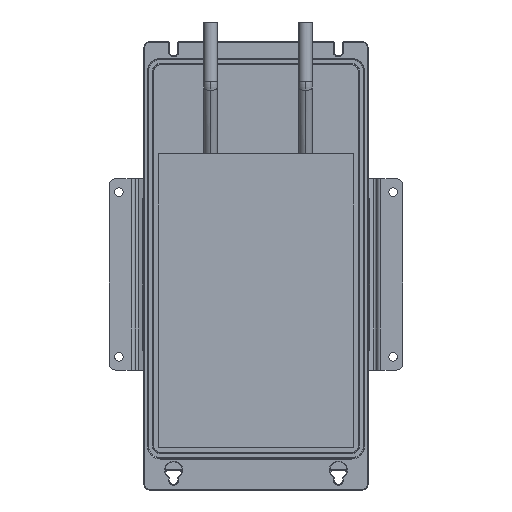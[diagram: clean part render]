
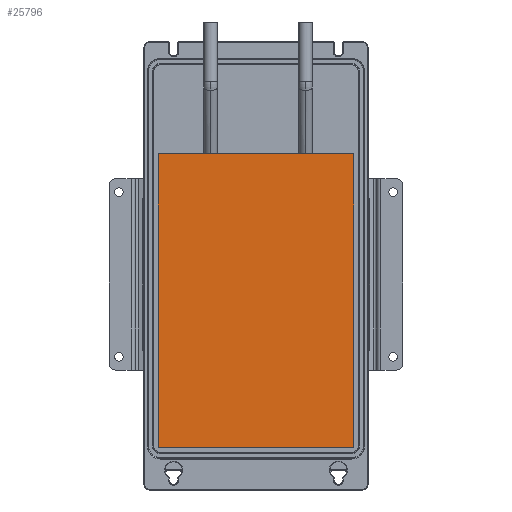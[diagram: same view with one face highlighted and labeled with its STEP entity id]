
A CAD part, front view. The second image highlights one B-rep face of the part: STEP entity #25796.
In plain terms, the highlighted planar face has unit normal (0, -1, 0).
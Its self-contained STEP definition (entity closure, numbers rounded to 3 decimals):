
#5644 = VECTOR ( 'NONE', #43757, 1000. ) ;
#6189 = VERTEX_POINT ( 'NONE', #9186 ) ;
#8726 = ORIENTED_EDGE ( 'NONE', *, *, #60782, .T. ) ;
#8763 = VECTOR ( 'NONE', #28967, 1000. ) ;
#9186 = CARTESIAN_POINT ( 'NONE',  ( -74., -19.5, -228. ) ) ;
#14443 = LINE ( 'NONE', #72367, #5644 ) ;
#14806 = LINE ( 'NONE', #20120, #42282 ) ;
#19475 = VERTEX_POINT ( 'NONE', #68230 ) ;
#20120 = CARTESIAN_POINT ( 'NONE',  ( 74., -19.5, -228. ) ) ;
#21647 = ORIENTED_EDGE ( 'NONE', *, *, #61737, .T. ) ;
#22239 = EDGE_CURVE ( 'NONE', #45304, #6189, #14443, .T. ) ;
#22510 = PLANE ( 'NONE',  #39768 ) ;
#25796 = ADVANCED_FACE ( 'NONE', ( #73964 ), #22510, .F. ) ;
#28967 = DIRECTION ( 'NONE',  ( 0., 0., 1. ) ) ;
#30814 = EDGE_CURVE ( 'NONE', #59395, #45304, #64825, .T. ) ;
#35467 = CARTESIAN_POINT ( 'NONE',  ( -74., -19.5, -5. ) ) ;
#37718 = DIRECTION ( 'NONE',  ( 1., 0., 0. ) ) ;
#39090 = CARTESIAN_POINT ( 'NONE',  ( 74., -19.5, -5. ) ) ;
#39768 = AXIS2_PLACEMENT_3D ( 'NONE', #62692, #56993, #51415 ) ;
#42282 = VECTOR ( 'NONE', #37718, 1000. ) ;
#43757 = DIRECTION ( 'NONE',  ( 0., 0., -1. ) ) ;
#45188 = EDGE_LOOP ( 'NONE', ( #8726, #58000, #52190, #21647 ) ) ;
#45304 = VERTEX_POINT ( 'NONE', #35467 ) ;
#47232 = VECTOR ( 'NONE', #53912, 1000. ) ;
#47923 = CARTESIAN_POINT ( 'NONE',  ( 74., -19.5, -5. ) ) ;
#51415 = DIRECTION ( 'NONE',  ( -1., 0., 0. ) ) ;
#52190 = ORIENTED_EDGE ( 'NONE', *, *, #22239, .T. ) ;
#53912 = DIRECTION ( 'NONE',  ( -1., 0., 0. ) ) ;
#55996 = LINE ( 'NONE', #39090, #8763 ) ;
#56993 = DIRECTION ( 'NONE',  ( 0., 1., 0. ) ) ;
#58000 = ORIENTED_EDGE ( 'NONE', *, *, #30814, .T. ) ;
#59395 = VERTEX_POINT ( 'NONE', #60587 ) ;
#60587 = CARTESIAN_POINT ( 'NONE',  ( 74., -19.5, -5. ) ) ;
#60782 = EDGE_CURVE ( 'NONE', #19475, #59395, #55996, .T. ) ;
#61737 = EDGE_CURVE ( 'NONE', #6189, #19475, #14806, .T. ) ;
#62692 = CARTESIAN_POINT ( 'NONE',  ( 0., -19.5, -5. ) ) ;
#64825 = LINE ( 'NONE', #47923, #47232 ) ;
#68230 = CARTESIAN_POINT ( 'NONE',  ( 74., -19.5, -228. ) ) ;
#72367 = CARTESIAN_POINT ( 'NONE',  ( -74., -19.5, -5. ) ) ;
#73964 = FACE_OUTER_BOUND ( 'NONE', #45188, .T. ) ;
